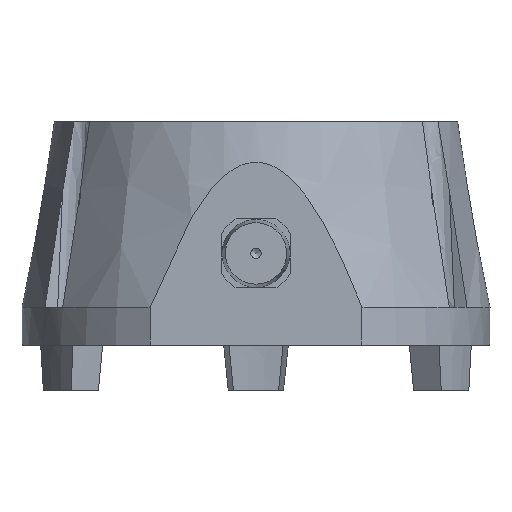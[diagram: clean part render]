
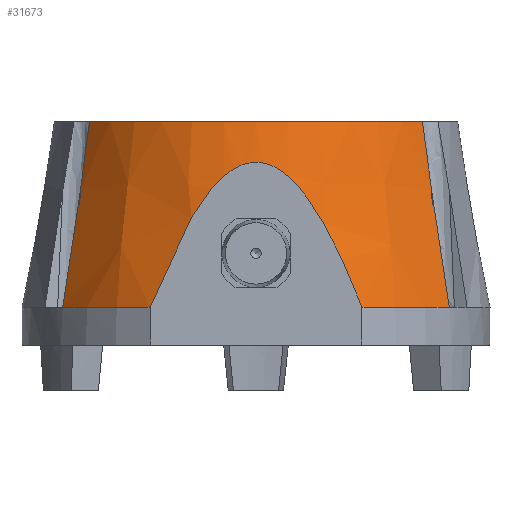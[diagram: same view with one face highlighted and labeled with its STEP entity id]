
A CAD part, front view. The second image highlights one B-rep face of the part: STEP entity #31673.
In plain terms, the highlighted conical face has half-angle 9.917 degrees and reference radius 74.587 mm.
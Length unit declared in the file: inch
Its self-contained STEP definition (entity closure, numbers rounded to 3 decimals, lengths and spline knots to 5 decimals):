
#1156=CONICAL_SURFACE($,#33416,2.9365,9.917);
#1167=B_SPLINE_CURVE_WITH_KNOTS($,3,(#40735,#40736,#40737,#40738,#40739,
#40740),.UNSPECIFIED.,.F.,.F.,(4,2,4),(11.50966,12.02362,
13.61985),.UNSPECIFIED.);
#1170=B_SPLINE_CURVE_WITH_KNOTS($,3,(#40789,#40790,#40791,#40792,#40793,
#40794),.UNSPECIFIED.,.F.,.F.,(4,2,4),(0.99358,2.5898,
3.10375),.UNSPECIFIED.);
#2328=(
BOUNDED_CURVE()
B_SPLINE_CURVE(2,(#40448,#40449,#40450),.UNSPECIFIED.,.F.,.F.)
B_SPLINE_CURVE_WITH_KNOTS((3,3),(0.,11.44364),.UNSPECIFIED.)
CURVE()
GEOMETRIC_REPRESENTATION_ITEM()
RATIONAL_B_SPLINE_CURVE((1.,1.121,1.))
REPRESENTATION_ITEM($)
);
#2330=(
BOUNDED_CURVE()
B_SPLINE_CURVE(2,(#40751,#40752,#40753),.UNSPECIFIED.,.F.,.F.)
B_SPLINE_CURVE_WITH_KNOTS((3,3),(0.,3.65016),.UNSPECIFIED.)
CURVE()
GEOMETRIC_REPRESENTATION_ITEM()
RATIONAL_B_SPLINE_CURVE((1.,1.002,1.001))
REPRESENTATION_ITEM($)
);
#2331=(
BOUNDED_CURVE()
B_SPLINE_CURVE(2,(#40757,#40758,#40759),.UNSPECIFIED.,.F.,.F.)
B_SPLINE_CURVE_WITH_KNOTS((3,3),(2.34551,5.99568),
 .UNSPECIFIED.)
CURVE()
GEOMETRIC_REPRESENTATION_ITEM()
RATIONAL_B_SPLINE_CURVE((1.001,1.002,1.))
REPRESENTATION_ITEM($)
);
#10609=FACE_OUTER_BOUND($,#12289,.T.);
#12289=EDGE_LOOP($,(#22425,#22426,#22427,#22428,#22429,#22430,#22431,#22432));
#14262=CIRCLE($,#33399,2.53);
#14270=CIRCLE($,#33417,2.9365);
#14271=CIRCLE($,#33418,2.9365);
#14365=VERTEX_POINT($,#40444);
#14367=VERTEX_POINT($,#40447);
#14402=VERTEX_POINT($,#40718);
#14404=VERTEX_POINT($,#40733);
#14405=VERTEX_POINT($,#40734);
#14407=VERTEX_POINT($,#40755);
#14408=VERTEX_POINT($,#40756);
#14414=VERTEX_POINT($,#40788);
#17520=EDGE_CURVE($,#14367,#14365,#2328,.T.);
#17572=EDGE_CURVE($,#14404,#14405,#1167,.T.);
#17576=EDGE_CURVE($,#14402,#14404,#2330,.T.);
#17577=EDGE_CURVE($,#14407,#14408,#2331,.T.);
#17585=EDGE_CURVE($,#14414,#14407,#1170,.T.);
#17592=EDGE_CURVE($,#14405,#14414,#14262,.T.);
#17608=EDGE_CURVE($,#14402,#14365,#14270,.T.);
#17609=EDGE_CURVE($,#14367,#14408,#14271,.T.);
#22425=ORIENTED_EDGE($,*,*,#17520,.T.);
#22426=ORIENTED_EDGE($,*,*,#17608,.F.);
#22427=ORIENTED_EDGE($,*,*,#17576,.T.);
#22428=ORIENTED_EDGE($,*,*,#17572,.T.);
#22429=ORIENTED_EDGE($,*,*,#17592,.T.);
#22430=ORIENTED_EDGE($,*,*,#17585,.T.);
#22431=ORIENTED_EDGE($,*,*,#17577,.T.);
#22432=ORIENTED_EDGE($,*,*,#17609,.F.);
#31673=ADVANCED_FACE($,(#10609),#1156,.T.);
#33399=AXIS2_PLACEMENT_3D($,#40808,#34736,#34737);
#33416=AXIS2_PLACEMENT_3D($,#40866,#34774,#34775);
#33417=AXIS2_PLACEMENT_3D($,#40867,#34776,#34777);
#33418=AXIS2_PLACEMENT_3D($,#40868,#34778,#34779);
#34736=DIRECTION('center_axis',(0.,0.,-1.));
#34737=DIRECTION('ref_axis',(-1.,0.,0.));
#34774=DIRECTION('center_axis',(0.,0.,-1.));
#34775=DIRECTION('ref_axis',(1.,0.,0.));
#34776=DIRECTION('center_axis',(0.,0.,-1.));
#34777=DIRECTION('ref_axis',(-1.,0.,0.));
#34778=DIRECTION('center_axis',(0.,0.,-1.));
#34779=DIRECTION('ref_axis',(-1.,0.,0.));
#40444=CARTESIAN_POINT('',(1.32909,-2.6185,0.475));
#40447=CARTESIAN_POINT('',(-1.32909,-2.6185,0.475));
#40448=CARTESIAN_POINT('Ctrl Pts',(-1.32909,-2.6185,0.475));
#40449=CARTESIAN_POINT('Ctrl Pts',(0.,-2.6185,3.91567));
#40450=CARTESIAN_POINT('Ctrl Pts',(1.32909,-2.6185,0.475));
#40718=CARTESIAN_POINT('',(2.42452,-1.65672,0.475));
#40733=CARTESIAN_POINT('',(2.20327,-1.52898,1.93164));
#40734=CARTESIAN_POINT('',(2.08714,-1.42995,2.8));
#40735=CARTESIAN_POINT('Ctrl Pts',(2.20327,-1.52898,1.93164));
#40736=CARTESIAN_POINT('Ctrl Pts',(2.19264,-1.52284,2.00157));
#40737=CARTESIAN_POINT('Ctrl Pts',(2.18253,-1.5164,2.0701));
#40738=CARTESIAN_POINT('Ctrl Pts',(2.14337,-1.48918,2.34289));
#40739=CARTESIAN_POINT('Ctrl Pts',(2.11283,-1.46218,2.5746));
#40740=CARTESIAN_POINT('Ctrl Pts',(2.08714,-1.42995,2.8));
#40751=CARTESIAN_POINT('Ctrl Pts',(2.42452,-1.65672,0.475));
#40752=CARTESIAN_POINT('Ctrl Pts',(2.30888,-1.58995,1.23654));
#40753=CARTESIAN_POINT('Ctrl Pts',(2.20327,-1.52898,1.93164));
#40755=CARTESIAN_POINT('',(-2.20327,-1.52898,1.93164));
#40756=CARTESIAN_POINT('',(-2.42452,-1.65672,0.475));
#40757=CARTESIAN_POINT('Ctrl Pts',(-2.20327,-1.52898,
1.93164));
#40758=CARTESIAN_POINT('Ctrl Pts',(-2.30888,-1.58995,
1.23654));
#40759=CARTESIAN_POINT('Ctrl Pts',(-2.42452,-1.65672,0.475));
#40788=CARTESIAN_POINT('',(-2.08714,-1.42995,2.8));
#40789=CARTESIAN_POINT('Ctrl Pts',(-2.08714,-1.42995,
2.8));
#40790=CARTESIAN_POINT('Ctrl Pts',(-2.11282,-1.46218,2.57461));
#40791=CARTESIAN_POINT('Ctrl Pts',(-2.14337,-1.48918,
2.34289));
#40792=CARTESIAN_POINT('Ctrl Pts',(-2.18253,-1.5164,
2.0701));
#40793=CARTESIAN_POINT('Ctrl Pts',(-2.19264,-1.52284,2.00157));
#40794=CARTESIAN_POINT('Ctrl Pts',(-2.20327,-1.52898,
1.93164));
#40808=CARTESIAN_POINT('Origin',(0.,0.,2.8));
#40866=CARTESIAN_POINT('Origin',(0.,0.,0.475));
#40867=CARTESIAN_POINT('Origin',(0.,0.,0.475));
#40868=CARTESIAN_POINT('Origin',(0.,0.,0.475));
